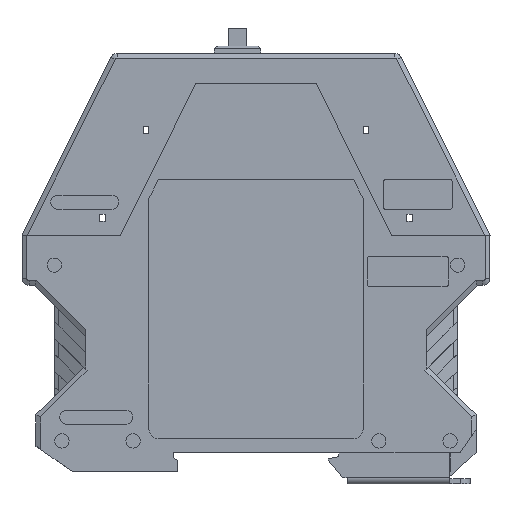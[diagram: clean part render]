
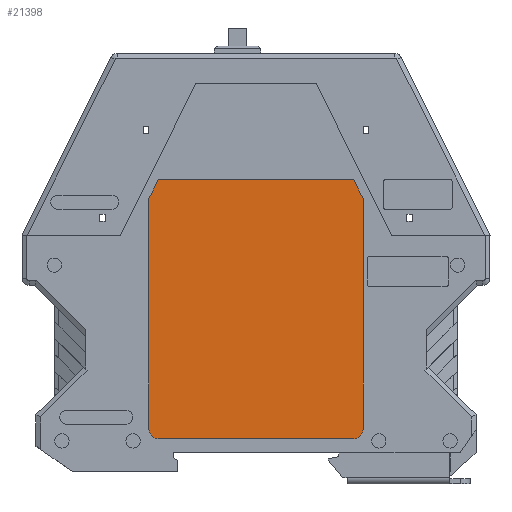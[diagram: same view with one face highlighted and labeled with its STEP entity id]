
A CAD part, front view. The second image highlights one B-rep face of the part: STEP entity #21398.
In plain terms, the highlighted planar face has unit normal (0, -1, 0).
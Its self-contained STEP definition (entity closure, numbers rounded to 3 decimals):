
#380=CIRCLE('',#22774,2.);
#381=CIRCLE('',#22775,2.);
#1320=FACE_OUTER_BOUND('',#2434,.T.);
#2434=EDGE_LOOP('',(#17645,#17646,#17647,#17648,#17649,#17650,#17651,#17652));
#4758=LINE('',#33012,#7510);
#4759=LINE('',#33018,#7511);
#4760=LINE('',#33021,#7512);
#4761=LINE('',#33023,#7513);
#4762=LINE('',#33025,#7514);
#4763=LINE('',#33026,#7515);
#7510=VECTOR('',#27114,1.);
#7511=VECTOR('',#27119,1.);
#7512=VECTOR('',#27122,1.);
#7513=VECTOR('',#27123,1.);
#7514=VECTOR('',#27124,1.);
#7515=VECTOR('',#27125,1.);
#9731=VERTEX_POINT('',#33008);
#9732=VERTEX_POINT('',#33010);
#9733=VERTEX_POINT('',#33014);
#9734=VERTEX_POINT('',#33015);
#9735=VERTEX_POINT('',#33017);
#9736=VERTEX_POINT('',#33020);
#9737=VERTEX_POINT('',#33022);
#9738=VERTEX_POINT('',#33024);
#12461=EDGE_CURVE('',#9732,#9731,#4758,.T.);
#12462=EDGE_CURVE('',#9733,#9734,#380,.T.);
#12463=EDGE_CURVE('',#9735,#9734,#4759,.T.);
#12464=EDGE_CURVE('',#9735,#9731,#381,.T.);
#12465=EDGE_CURVE('',#9732,#9736,#4760,.T.);
#12466=EDGE_CURVE('',#9737,#9736,#4761,.T.);
#12467=EDGE_CURVE('',#9737,#9738,#4762,.T.);
#12468=EDGE_CURVE('',#9733,#9738,#4763,.T.);
#17645=ORIENTED_EDGE('',*,*,#12462,.T.);
#17646=ORIENTED_EDGE('',*,*,#12463,.F.);
#17647=ORIENTED_EDGE('',*,*,#12464,.T.);
#17648=ORIENTED_EDGE('',*,*,#12461,.F.);
#17649=ORIENTED_EDGE('',*,*,#12465,.T.);
#17650=ORIENTED_EDGE('',*,*,#12466,.F.);
#17651=ORIENTED_EDGE('',*,*,#12467,.T.);
#17652=ORIENTED_EDGE('',*,*,#12468,.F.);
#19949=PLANE('',#22773);
#21398=ADVANCED_FACE('',(#1320),#19949,.T.);
#22773=AXIS2_PLACEMENT_3D('',#33013,#27115,#27116);
#22774=AXIS2_PLACEMENT_3D('',#33016,#27117,#27118);
#22775=AXIS2_PLACEMENT_3D('',#33019,#27120,#27121);
#27114=DIRECTION('',(0.,0.,-1.));
#27115=DIRECTION('center_axis',(0.,-1.,0.));
#27116=DIRECTION('ref_axis',(0.,0.,-1.));
#27117=DIRECTION('center_axis',(0.,-1.,0.));
#27118=DIRECTION('ref_axis',(-1.,0.,0.));
#27119=DIRECTION('',(-1.,0.,0.));
#27120=DIRECTION('center_axis',(0.,-1.,0.));
#27121=DIRECTION('ref_axis',(0.,0.,-1.));
#27122=DIRECTION('',(-0.447,0.,0.894));
#27123=DIRECTION('',(1.,0.,0.));
#27124=DIRECTION('',(-0.447,0.,-0.894));
#27125=DIRECTION('',(0.,0.,1.));
#33008=CARTESIAN_POINT('',(22.65,0.2,5.));
#33010=CARTESIAN_POINT('',(22.65,0.2,53.8));
#33012=CARTESIAN_POINT('',(22.65,0.2,53.8));
#33013=CARTESIAN_POINT('Origin',(0.,0.2,81.35));
#33014=CARTESIAN_POINT('',(-22.65,0.2,5.));
#33015=CARTESIAN_POINT('',(-20.65,0.2,3.));
#33016=CARTESIAN_POINT('Origin',(-20.65,0.2,5.));
#33017=CARTESIAN_POINT('',(20.65,0.2,3.));
#33018=CARTESIAN_POINT('',(20.65,0.2,3.));
#33019=CARTESIAN_POINT('Origin',(20.65,0.2,5.));
#33020=CARTESIAN_POINT('',(20.65,0.2,57.8));
#33021=CARTESIAN_POINT('',(22.65,0.2,53.8));
#33022=CARTESIAN_POINT('',(-20.65,0.2,57.8));
#33023=CARTESIAN_POINT('',(-20.65,0.2,57.8));
#33024=CARTESIAN_POINT('',(-22.65,0.2,53.8));
#33025=CARTESIAN_POINT('',(-20.65,0.2,57.8));
#33026=CARTESIAN_POINT('',(-22.65,0.2,5.));
